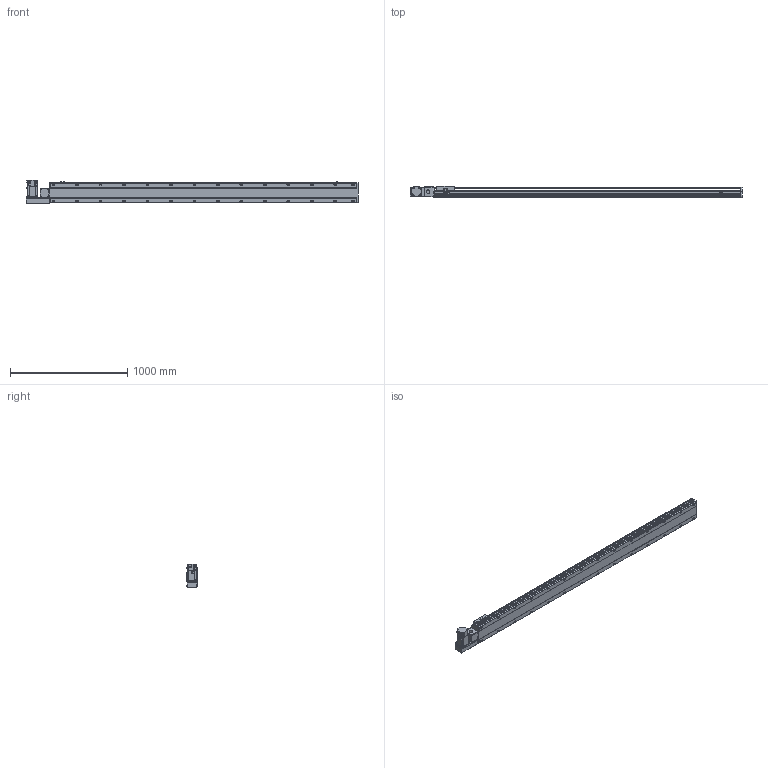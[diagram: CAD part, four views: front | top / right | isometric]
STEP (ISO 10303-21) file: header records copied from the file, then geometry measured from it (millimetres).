
FILE_DESCRIPTION( ( 'STEP AP214' ), '1' );
FILE_NAME( 'x:/temp/worker_3/temp/exporttempdir_5796_122_nnCqe/format_0/PBS170-P40-S2350-L-T75-C1-N(0).stp', '2022-06-07T06:58:37', ( 'License CC BY-ND 4.0' ), ( 'CADENAS' ), ' ', 'PARTsolutions', ' ' );
FILE_SCHEMA( ( 'AUTOMOTIVE_DESIGN { 1 0 10303 214 1 1 1 1 }' ) );
Length unit declared in the file: millimetre
Products named in the file (7): PBS170-P40-S2350-L-T75-C1-N(0); _PBS170-S2350()_body; _PBS170T-L_motors; _T75-p1; _PBS170_sliser; _PBS170_plant; _PBS170_sensor
Assembly tree (8 placements, depth 2):
  PBS170-P40-S2350-L-T75-C1-N(0)
    _PBS170-S2350()_body
    _PBS170T-L_motors
    _T75-p1
    _PBS170_sliser
    _PBS170_plant
    _PBS170_sensor  x3
Bounding box: 2828 x 97 x 197.3 mm (x, y, z)
Volume: 20610159.3 mm3; surface area: 2600493.6 mm2
Topology: 8 solids, 8 shells, 1178 faces, 3115 edges, 2030 vertices
Faces by surface type: plane 723, cylinder 387, cone 58, sphere 8, torus 2
Full cylindrical faces by diameter (mm): 3.242 x4, 4 x2, 4.4 x4, 4.5 x6, 4.917 x4, 6 x9, 6.647 x36, 7 x2, 7.5 x4, 8 x8, 8.5 x28, 10 x4, 10.5 x28, 11 x2, 30 x2, 40 x1, 70 x1
Entity records: 43592 total; most frequent: CARTESIAN_POINT 7229, DIRECTION 5720, ORIENTED_EDGE 5388, EDGE_CURVE 2694, AXIS2_PLACEMENT_3D 2017, VERTEX_POINT 1874, LINE 1686, VECTOR 1686
